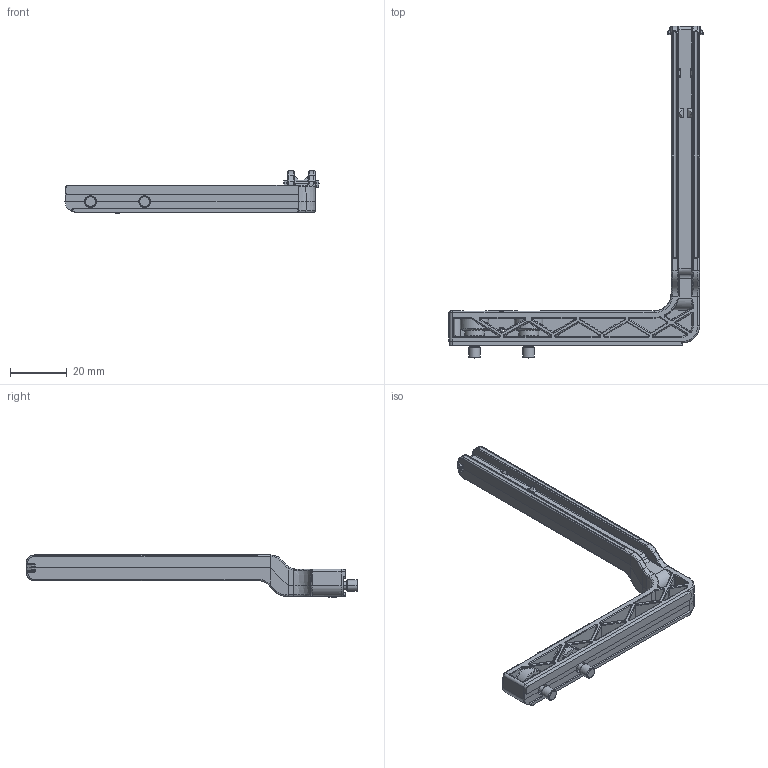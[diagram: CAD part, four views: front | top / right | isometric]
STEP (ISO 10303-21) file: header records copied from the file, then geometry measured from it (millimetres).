
FILE_DESCRIPTION (( 'STEP AP203' ), '1' );
FILE_NAME ('00030515 - PLASTIC FINGER LONG WIDE GRIP WITH CAPTIVE SCREWS.step', '2013-04-05T16:25:19', ( '' ), ( '' ), 'SwSTEP 2.0', 'SolidWorks 2012', '' );
FILE_SCHEMA (( 'CONFIG_CONTROL_DESIGN' ));
Length unit declared in the file: millimetre
Products named in the file (1): 00030515 - PLASTIC FINGER LONG WIDE GRIP WITH CAPTIVE SCREWS
Bounding box: 89.15 x 116.5 x 14.75 mm (x, y, z)
Surface area: 11511.4 mm2 (no closed solid volume)
Topology: 0 solids, 6 shells, 743 faces, 2047 edges, 1225 vertices
Faces by surface type: cylinder 322, bspline 200, plane 152, torus 29, cone 23, sphere 17
Entity records: 27416 total; most frequent: CARTESIAN_POINT 11039, ORIENTED_EDGE 3548, DIRECTION 3092, EDGE_CURVE 2030, VERTEX_POINT 1225, AXIS2_PLACEMENT_3D 1146, VECTOR 800, LINE 800
